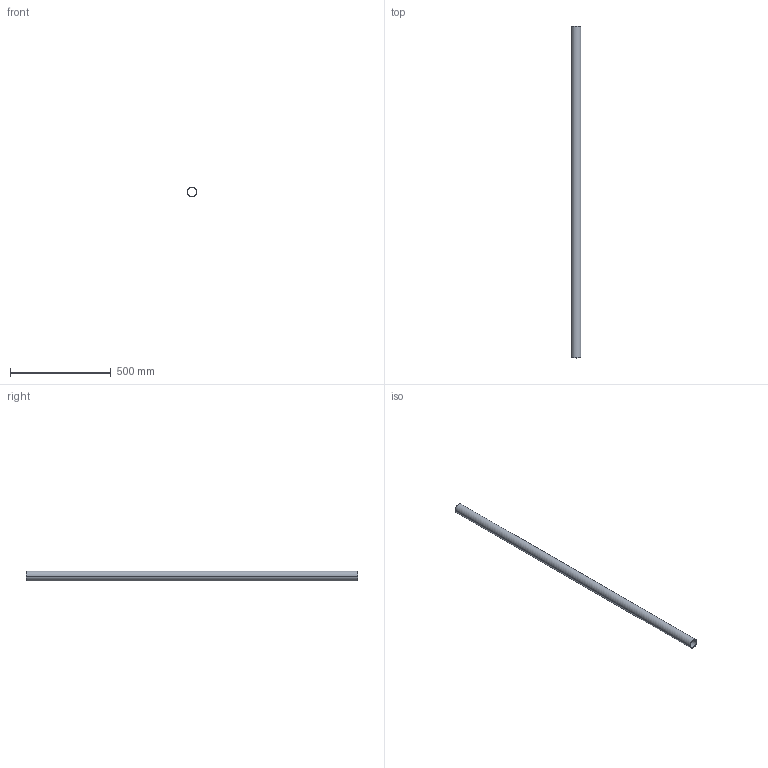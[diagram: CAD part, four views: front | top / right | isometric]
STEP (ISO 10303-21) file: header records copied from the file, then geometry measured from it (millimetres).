
FILE_DESCRIPTION (( 'STEP AP214' ), '1' );
FILE_NAME ('CCJ029-REP.339 - MAIN COURANTE PLATEFORME SUPERIEURE B1-C1.STEP', '2025-11-04T13:11:09', ( '' ), ( '' ), 'SwSTEP 2.0', 'SolidWorks 2021', '' );
FILE_SCHEMA (( 'AUTOMOTIVE_DESIGN' ));
Length unit declared in the file: millimetre
Products named in the file (1): CCJ029-REP.339 - MAIN COURANTE PLATEFORME SUPERIEURE B1-C1
Bounding box: 48.3 x 1646 x 48.3 mm (x, y, z)
Volume: 592086.5 mm3; surface area: 474388.7 mm2
Topology: 1 solids, 1 shells, 6 faces, 12 edges, 8 vertices
Faces by surface type: cylinder 4, plane 2
Entity records: 202 total; most frequent: DIRECTION 34, CARTESIAN_POINT 27, ORIENTED_EDGE 24, AXIS2_PLACEMENT_3D 15, EDGE_CURVE 12, EDGE_LOOP 8, CIRCLE 8, VERTEX_POINT 8
